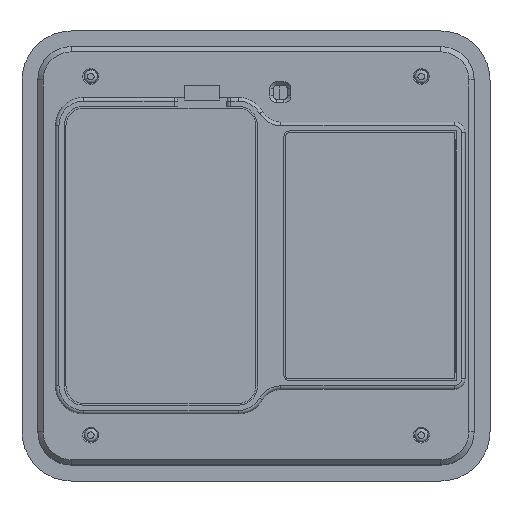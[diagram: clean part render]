
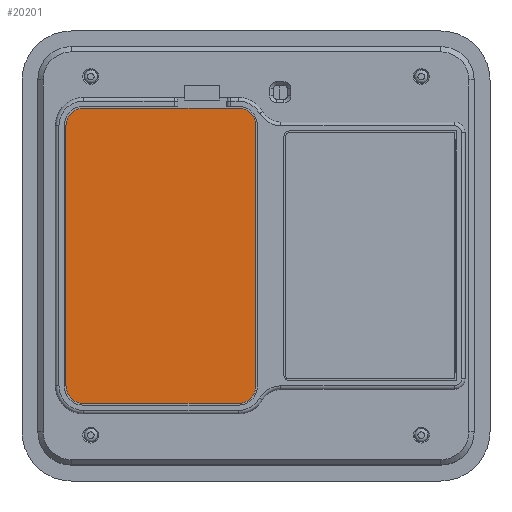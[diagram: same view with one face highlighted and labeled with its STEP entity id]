
A CAD part, top view. The second image highlights one B-rep face of the part: STEP entity #20201.
In plain terms, the highlighted planar face has unit normal (0, 0, 1).
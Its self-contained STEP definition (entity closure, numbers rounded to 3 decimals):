
#758=CIRCLE('',#21537,5.);
#760=CIRCLE('',#21541,5.);
#762=CIRCLE('',#21545,5.);
#764=CIRCLE('',#21549,5.);
#2280=FACE_OUTER_BOUND('',#3541,.T.);
#3541=EDGE_LOOP('',(#18391,#18392,#18393,#18394,#18395,#18396,#18397,#18398));
#5769=LINE('',#34043,#8012);
#5774=LINE('',#34057,#8017);
#5778=LINE('',#34069,#8021);
#5782=LINE('',#34081,#8025);
#8012=VECTOR('',#26420,10.);
#8017=VECTOR('',#26433,10.);
#8021=VECTOR('',#26445,10.);
#8025=VECTOR('',#26457,10.);
#9854=VERTEX_POINT('',#34041);
#9855=VERTEX_POINT('',#34042);
#9858=VERTEX_POINT('',#34050);
#9860=VERTEX_POINT('',#34056);
#9862=VERTEX_POINT('',#34062);
#9864=VERTEX_POINT('',#34068);
#9866=VERTEX_POINT('',#34074);
#9868=VERTEX_POINT('',#34080);
#12689=EDGE_CURVE('',#9854,#9855,#5769,.T.);
#12693=EDGE_CURVE('',#9855,#9858,#758,.T.);
#12696=EDGE_CURVE('',#9858,#9860,#5774,.T.);
#12699=EDGE_CURVE('',#9860,#9862,#760,.T.);
#12702=EDGE_CURVE('',#9862,#9864,#5778,.T.);
#12705=EDGE_CURVE('',#9864,#9866,#762,.T.);
#12708=EDGE_CURVE('',#9866,#9868,#5782,.T.);
#12711=EDGE_CURVE('',#9868,#9854,#764,.T.);
#18391=ORIENTED_EDGE('',*,*,#12702,.F.);
#18392=ORIENTED_EDGE('',*,*,#12699,.F.);
#18393=ORIENTED_EDGE('',*,*,#12696,.F.);
#18394=ORIENTED_EDGE('',*,*,#12693,.F.);
#18395=ORIENTED_EDGE('',*,*,#12689,.F.);
#18396=ORIENTED_EDGE('',*,*,#12711,.F.);
#18397=ORIENTED_EDGE('',*,*,#12708,.F.);
#18398=ORIENTED_EDGE('',*,*,#12705,.F.);
#19142=PLANE('',#21552);
#20201=ADVANCED_FACE('',(#2280),#19142,.T.);
#21537=AXIS2_PLACEMENT_3D('',#34051,#26426,#26427);
#21541=AXIS2_PLACEMENT_3D('',#34063,#26438,#26439);
#21545=AXIS2_PLACEMENT_3D('',#34075,#26450,#26451);
#21549=AXIS2_PLACEMENT_3D('',#34086,#26462,#26463);
#21552=AXIS2_PLACEMENT_3D('',#34089,#26468,#26469);
#26420=DIRECTION('',(-1.,0.,0.));
#26426=DIRECTION('center_axis',(0.,0.,-1.));
#26427=DIRECTION('ref_axis',(-1.,0.,0.));
#26433=DIRECTION('',(0.,1.,0.));
#26438=DIRECTION('center_axis',(0.,0.,-1.));
#26439=DIRECTION('ref_axis',(0.,1.,0.));
#26445=DIRECTION('',(1.,0.,0.));
#26450=DIRECTION('center_axis',(0.,0.,-1.));
#26451=DIRECTION('ref_axis',(1.,0.,0.));
#26457=DIRECTION('',(0.,-1.,0.));
#26462=DIRECTION('center_axis',(0.,0.,-1.));
#26463=DIRECTION('ref_axis',(0.,-1.,0.));
#26468=DIRECTION('center_axis',(0.,0.,1.));
#26469=DIRECTION('ref_axis',(1.,0.,0.));
#34041=CARTESIAN_POINT('',(-16.206,-39.209,-15.));
#34042=CARTESIAN_POINT('',(-60.206,-39.209,-15.));
#34043=CARTESIAN_POINT('',(-49.206,-39.209,-15.));
#34050=CARTESIAN_POINT('',(-65.206,-34.209,-15.));
#34051=CARTESIAN_POINT('Origin',(-60.206,-34.209,-15.));
#34056=CARTESIAN_POINT('',(-65.206,39.791,-15.));
#34057=CARTESIAN_POINT('',(-65.206,21.291,-15.));
#34062=CARTESIAN_POINT('',(-60.206,44.791,-15.));
#34063=CARTESIAN_POINT('Origin',(-60.206,39.791,-15.));
#34068=CARTESIAN_POINT('',(-16.206,44.791,-15.));
#34069=CARTESIAN_POINT('',(-27.206,44.791,-15.));
#34074=CARTESIAN_POINT('',(-11.206,39.791,-15.));
#34075=CARTESIAN_POINT('Origin',(-16.206,39.791,-15.));
#34080=CARTESIAN_POINT('',(-11.206,-34.209,-15.));
#34081=CARTESIAN_POINT('',(-11.206,-15.709,-15.));
#34086=CARTESIAN_POINT('Origin',(-16.206,-34.209,-15.));
#34089=CARTESIAN_POINT('Origin',(-38.206,2.791,-15.));
